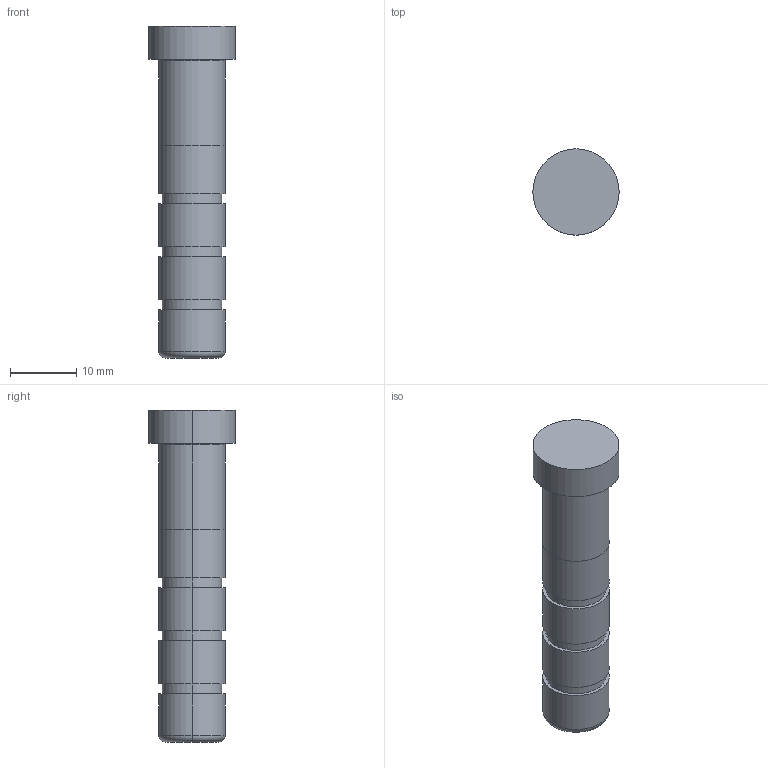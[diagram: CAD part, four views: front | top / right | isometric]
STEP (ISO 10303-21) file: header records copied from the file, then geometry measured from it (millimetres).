
FILE_DESCRIPTION(/* description */ (''),/* implementation_level */ '2;1');
FILE_NAME(/* name */ '3d_sgoh10-50_05217_r00.stp',/* time_stamp */ '2011-01-10T14:11:10+09:00',/* author */ ('MISUMI'),/* organization */ (''),/* preprocessor_version */ 'ST-DEVELOPER v11',/* originating_system */ 'UGS - NX 5.0',/* authorisation */ '');
FILE_SCHEMA (('CONFIG_CONTROL_DESIGN'));
Length unit declared in the file: millimetre
Products named in the file (1): 3d_sgoh10-50_05217_r00
Bounding box: 13 x 13 x 50 mm (x, y, z)
Volume: 4124.8 mm3; surface area: 1941.5 mm2
Topology: 1 solids, 1 shells, 31 faces, 60 edges, 38 vertices
Faces by surface type: cylinder 18, plane 9, torus 4
Entity records: 894 total; most frequent: DIRECTION 166, CARTESIAN_POINT 130, ORIENTED_EDGE 120, AXIS2_PLACEMENT_3D 74, EDGE_CURVE 60, CIRCLE 42, EDGE_LOOP 38, VERTEX_POINT 38
